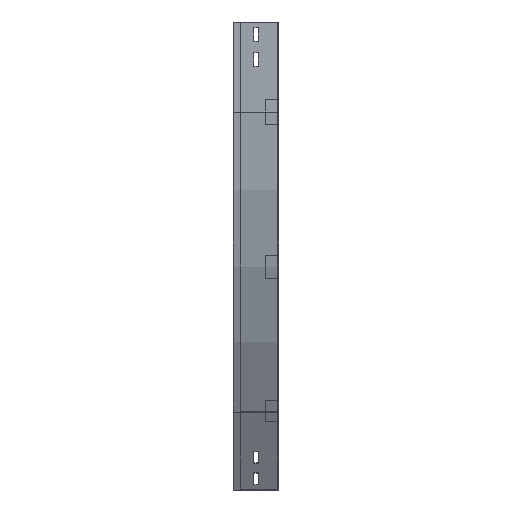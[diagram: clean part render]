
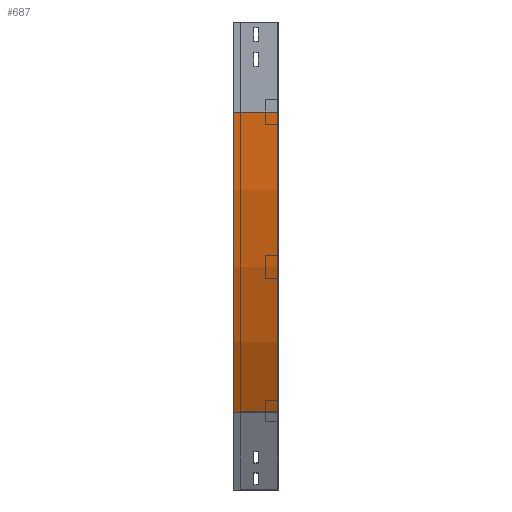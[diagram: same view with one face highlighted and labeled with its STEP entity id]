
A CAD part, left-side view. The second image highlights one B-rep face of the part: STEP entity #687.
In plain terms, the highlighted cylindrical face has radius 1000 mm (diameter 2000 mm), a partial arc.
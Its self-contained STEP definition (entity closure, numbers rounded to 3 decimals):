
#396 = CARTESIAN_POINT ( 'NONE',  ( 1000., 0., -150. ) ) ;
#569 = CARTESIAN_POINT ( 'NONE',  ( 1000., 75., -150. ) ) ;
#687 = ADVANCED_FACE ( 'NONE', ( #3346 ), #3380, .T. ) ;
#773 = AXIS2_PLACEMENT_3D ( 'NONE', #2760, #1573, #2485 ) ;
#1030 = VECTOR ( 'NONE', #2871, 1000. ) ;
#1258 = CARTESIAN_POINT ( 'NONE',  ( 133.975, 0., -650. ) ) ;
#1327 = EDGE_CURVE ( 'NONE', #1436, #3066, #1600, .T. ) ;
#1367 = LINE ( 'NONE', #1654, #3692 ) ;
#1436 = VERTEX_POINT ( 'NONE', #2972 ) ;
#1552 = EDGE_LOOP ( 'NONE', ( #2323, #2311, #1769, #3278 ) ) ;
#1573 = DIRECTION ( 'NONE',  ( 0., -1., 0. ) ) ;
#1600 = LINE ( 'NONE', #1675, #1030 ) ;
#1653 = EDGE_CURVE ( 'NONE', #3235, #3555, #1367, .T. ) ;
#1654 = CARTESIAN_POINT ( 'NONE',  ( 0., 0., -150. ) ) ;
#1675 = CARTESIAN_POINT ( 'NONE',  ( 133.975, 0., -650. ) ) ;
#1769 = ORIENTED_EDGE ( 'NONE', *, *, #3286, .T. ) ;
#1818 = DIRECTION ( 'NONE',  ( 0., -1., 0. ) ) ;
#2311 = ORIENTED_EDGE ( 'NONE', *, *, #1653, .F. ) ;
#2323 = ORIENTED_EDGE ( 'NONE', *, *, #3431, .F. ) ;
#2329 = CARTESIAN_POINT ( 'NONE',  ( 0., 75., -150. ) ) ;
#2379 = AXIS2_PLACEMENT_3D ( 'NONE', #569, #2629, #2606 ) ;
#2485 = DIRECTION ( 'NONE',  ( -1., 0., 0. ) ) ;
#2606 = DIRECTION ( 'NONE',  ( -1., 0., 0. ) ) ;
#2629 = DIRECTION ( 'NONE',  ( 0., -1., 0. ) ) ;
#2760 = CARTESIAN_POINT ( 'NONE',  ( 1000., 0., -150. ) ) ;
#2871 = DIRECTION ( 'NONE',  ( 0., -1., 0. ) ) ;
#2972 = CARTESIAN_POINT ( 'NONE',  ( 133.975, 75., -650. ) ) ;
#3058 = CARTESIAN_POINT ( 'NONE',  ( 0., 0., -150. ) ) ;
#3066 = VERTEX_POINT ( 'NONE', #1258 ) ;
#3071 = CIRCLE ( 'NONE', #2379, 1000. ) ;
#3235 = VERTEX_POINT ( 'NONE', #2329 ) ;
#3278 = ORIENTED_EDGE ( 'NONE', *, *, #1327, .T. ) ;
#3286 = EDGE_CURVE ( 'NONE', #3235, #1436, #3071, .T. ) ;
#3346 = FACE_OUTER_BOUND ( 'NONE', #1552, .T. ) ;
#3380 = CYLINDRICAL_SURFACE ( 'NONE', #3773, 1000. ) ;
#3431 = EDGE_CURVE ( 'NONE', #3555, #3066, #3451, .T. ) ;
#3451 = CIRCLE ( 'NONE', #773, 1000. ) ;
#3555 = VERTEX_POINT ( 'NONE', #3058 ) ;
#3661 = DIRECTION ( 'NONE',  ( 0., 0., -1. ) ) ;
#3692 = VECTOR ( 'NONE', #3719, 1000. ) ;
#3719 = DIRECTION ( 'NONE',  ( 0., -1., 0. ) ) ;
#3773 = AXIS2_PLACEMENT_3D ( 'NONE', #396, #1818, #3661 ) ;
